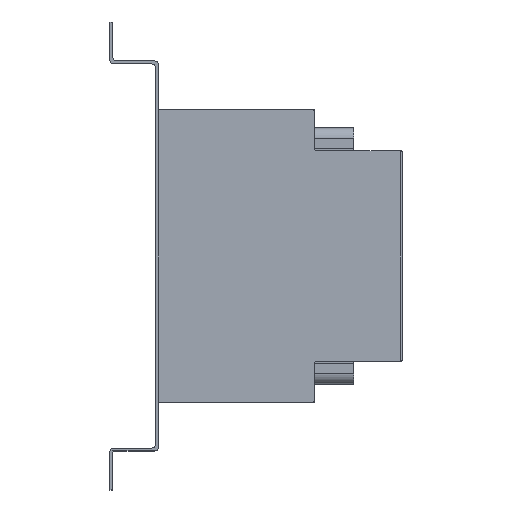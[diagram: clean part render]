
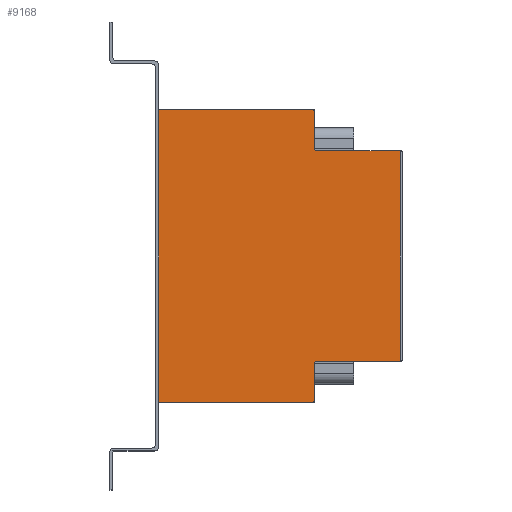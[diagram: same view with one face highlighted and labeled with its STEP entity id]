
A CAD part, left-side view. The second image highlights one B-rep face of the part: STEP entity #9168.
In plain terms, the highlighted planar face has unit normal (-1, 0, 0).
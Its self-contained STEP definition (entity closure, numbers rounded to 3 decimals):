
#330=PLANE('',#9785);
#701=FACE_OUTER_BOUND('',#1228,.T.);
#1228=EDGE_LOOP('',(#6758,#6759,#6760,#6761,#6762,#6763,#6764,#6765,#6766,
#6767,#6768,#6769));
#1816=LINE('',#13079,#2823);
#1891=LINE('',#13294,#2898);
#1946=LINE('',#13424,#2953);
#2032=LINE('',#13622,#3039);
#2043=LINE('',#13647,#3050);
#2050=LINE('',#13669,#3057);
#2051=LINE('',#13671,#3058);
#2052=LINE('',#13672,#3059);
#2823=VECTOR('',#10517,43.);
#2898=VECTOR('',#10702,43.);
#2953=VECTOR('',#10807,79.);
#3039=VECTOR('',#10971,79.);
#3050=VECTOR('',#10992,19.);
#3057=VECTOR('',#11021,108.);
#3058=VECTOR('',#11024,19.);
#3059=VECTOR('',#11025,150.);
#3768=CIRCLE('',#9678,1.);
#3780=CIRCLE('',#9726,1.);
#3800=CIRCLE('',#9770,1.);
#3802=CIRCLE('',#9776,1.);
#4066=VERTEX_POINT('',#13076);
#4067=VERTEX_POINT('',#13078);
#4097=VERTEX_POINT('',#13164);
#4151=VERTEX_POINT('',#13291);
#4152=VERTEX_POINT('',#13293);
#4196=VERTEX_POINT('',#13407);
#4197=VERTEX_POINT('',#13408);
#4202=VERTEX_POINT('',#13423);
#4274=VERTEX_POINT('',#13619);
#4275=VERTEX_POINT('',#13621);
#4280=VERTEX_POINT('',#13634);
#4284=VERTEX_POINT('',#13646);
#4975=EDGE_CURVE('',#4067,#4066,#1816,.T.);
#5020=EDGE_CURVE('',#4067,#4097,#3768,.T.);
#5082=EDGE_CURVE('',#4152,#4151,#1891,.T.);
#5143=EDGE_CURVE('',#4196,#4197,#3780,.T.);
#5151=EDGE_CURVE('',#4202,#4197,#1946,.T.);
#5255=EDGE_CURVE('',#4275,#4274,#2032,.T.);
#5262=EDGE_CURVE('',#4275,#4280,#3800,.T.);
#5268=EDGE_CURVE('',#4284,#4280,#2043,.T.);
#5271=EDGE_CURVE('',#4284,#4151,#3802,.T.);
#5281=EDGE_CURVE('',#4152,#4066,#2050,.T.);
#5282=EDGE_CURVE('',#4196,#4097,#2051,.T.);
#5283=EDGE_CURVE('',#4202,#4274,#2052,.T.);
#6758=ORIENTED_EDGE('',*,*,#5143,.F.);
#6759=ORIENTED_EDGE('',*,*,#5282,.T.);
#6760=ORIENTED_EDGE('',*,*,#5020,.F.);
#6761=ORIENTED_EDGE('',*,*,#4975,.T.);
#6762=ORIENTED_EDGE('',*,*,#5281,.F.);
#6763=ORIENTED_EDGE('',*,*,#5082,.T.);
#6764=ORIENTED_EDGE('',*,*,#5271,.F.);
#6765=ORIENTED_EDGE('',*,*,#5268,.T.);
#6766=ORIENTED_EDGE('',*,*,#5262,.F.);
#6767=ORIENTED_EDGE('',*,*,#5255,.T.);
#6768=ORIENTED_EDGE('',*,*,#5283,.F.);
#6769=ORIENTED_EDGE('',*,*,#5151,.T.);
#9168=ADVANCED_FACE('',(#701),#330,.T.);
#9678=AXIS2_PLACEMENT_3D('',#13165,#10601,#10602);
#9726=AXIS2_PLACEMENT_3D('',#13409,#10793,#10794);
#9770=AXIS2_PLACEMENT_3D('',#13635,#10980,#10981);
#9776=AXIS2_PLACEMENT_3D('',#13651,#10998,#10999);
#9785=AXIS2_PLACEMENT_3D('',#13670,#11022,#11023);
#10517=DIRECTION('',(0.,-1.,0.));
#10601=DIRECTION('center_axis',(-1.,0.,0.));
#10602=DIRECTION('ref_axis',(0.,0.707,0.707));
#10702=DIRECTION('',(0.,1.,0.));
#10793=DIRECTION('center_axis',(1.,0.,0.));
#10794=DIRECTION('ref_axis',(0.,-0.707,-0.707));
#10807=DIRECTION('',(0.,-1.,0.));
#10971=DIRECTION('',(0.,1.,0.));
#10980=DIRECTION('center_axis',(1.,0.,0.));
#10981=DIRECTION('ref_axis',(0.,-0.707,0.707));
#10992=DIRECTION('',(0.,0.,1.));
#10998=DIRECTION('center_axis',(-1.,0.,0.));
#10999=DIRECTION('ref_axis',(0.,0.707,-0.707));
#11021=DIRECTION('',(0.,0.,-1.));
#11022=DIRECTION('center_axis',(-1.,0.,0.));
#11023=DIRECTION('ref_axis',(0.,-1.,0.));
#11024=DIRECTION('',(0.,0.,1.));
#11025=DIRECTION('',(0.,0.,1.));
#13076=CARTESIAN_POINT('',(33.145,-278.265,42.5));
#13078=CARTESIAN_POINT('',(33.145,-235.265,42.5));
#13079=CARTESIAN_POINT('',(33.145,-234.265,42.5));
#13164=CARTESIAN_POINT('',(33.145,-234.265,41.5));
#13165=CARTESIAN_POINT('Origin',(33.145,-235.265,41.5));
#13291=CARTESIAN_POINT('',(33.145,-235.265,150.5));
#13293=CARTESIAN_POINT('',(33.145,-278.265,150.5));
#13294=CARTESIAN_POINT('',(33.145,-279.265,150.5));
#13407=CARTESIAN_POINT('',(33.145,-234.265,22.5));
#13408=CARTESIAN_POINT('',(33.145,-233.265,21.5));
#13409=CARTESIAN_POINT('Origin',(33.145,-233.265,22.5));
#13423=CARTESIAN_POINT('',(33.145,-154.265,21.5));
#13424=CARTESIAN_POINT('',(33.145,-154.265,21.5));
#13619=CARTESIAN_POINT('',(33.145,-154.265,171.5));
#13621=CARTESIAN_POINT('',(33.145,-233.265,171.5));
#13622=CARTESIAN_POINT('',(33.145,-234.265,171.5));
#13634=CARTESIAN_POINT('',(33.145,-234.265,170.5));
#13635=CARTESIAN_POINT('Origin',(33.145,-233.265,170.5));
#13646=CARTESIAN_POINT('',(33.145,-234.265,151.5));
#13647=CARTESIAN_POINT('',(33.145,-234.265,150.5));
#13651=CARTESIAN_POINT('Origin',(33.145,-235.265,151.5));
#13669=CARTESIAN_POINT('',(33.145,-278.265,69.5));
#13670=CARTESIAN_POINT('Origin',(33.145,-213.328,96.5));
#13671=CARTESIAN_POINT('',(33.145,-234.265,21.5));
#13672=CARTESIAN_POINT('',(33.145,-154.265,146.5));
